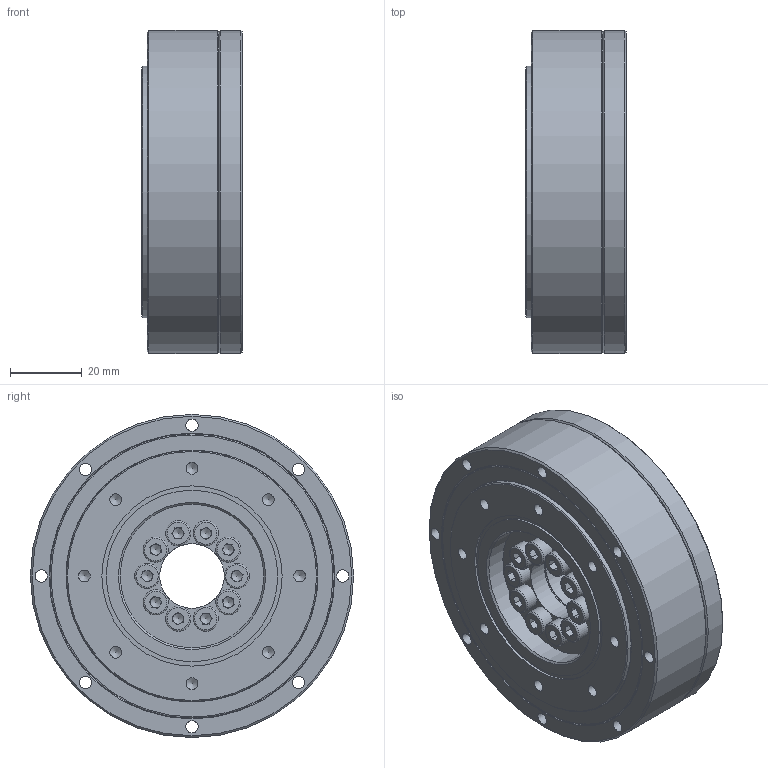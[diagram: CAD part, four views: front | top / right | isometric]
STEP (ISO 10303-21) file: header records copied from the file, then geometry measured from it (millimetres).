
FILE_DESCRIPTION (( 'STEP AP203' ), '1' );
FILE_NAME ('LCD-20-XXX-C-I.STEP', '2025-01-20T02:20:22', ( '' ), ( '' ), 'SwSTEP 2.0', 'SolidWorks 2023', '' );
FILE_SCHEMA (( 'CONFIG_CONTROL_DESIGN' ));
Length unit declared in the file: metre
Products named in the file (1): LCD-20-XXX-C-I
Bounding box: 28 x 90 x 90 mm (x, y, z)
Volume: 122786.3 mm3; surface area: 82307.9 mm2
Topology: 54 solids, 54 shells, 873 faces, 2076 edges, 1308 vertices
Faces by surface type: plane 435, cylinder 240, cone 120, bspline 78
Full cylindrical faces by diameter (mm): 1.6 x4, 2 x4, 2.05 x4, 2.4 x4, 2.5 x16, 2.9 x4, 3 x1, 3.3 x26, 3.4 x16, 3.5 x4, 3.8 x4, 4 x10, 4.5 x24, 4.7 x4, 5.5 x1, 7 x10, 18 x2, 19 x2, 20 x2, 32 x2, 34 x2, 36 x1, 36.5 x1, 37 x1, 38.5 x1, 39 x1, 39.499 x2, 40 x1, 40.17 x1, 43.5 x1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
Entity records: 26942 total; most frequent: CARTESIAN_POINT 8608, DIRECTION 3866, ORIENTED_EDGE 3218, EDGE_CURVE 1609, AXIS2_PLACEMENT_3D 1603, EDGE_LOOP 1394, VERTEX_POINT 1193, FACE_OUTER_BOUND 1091
